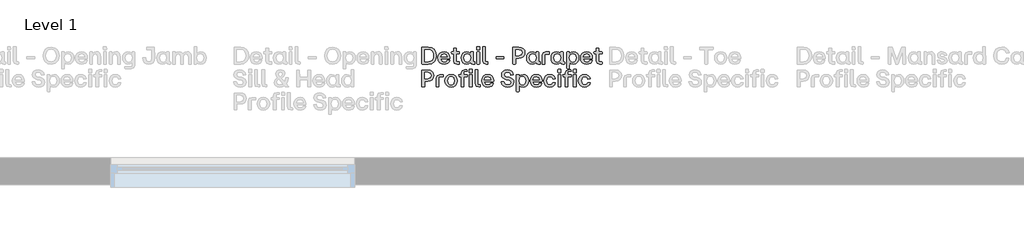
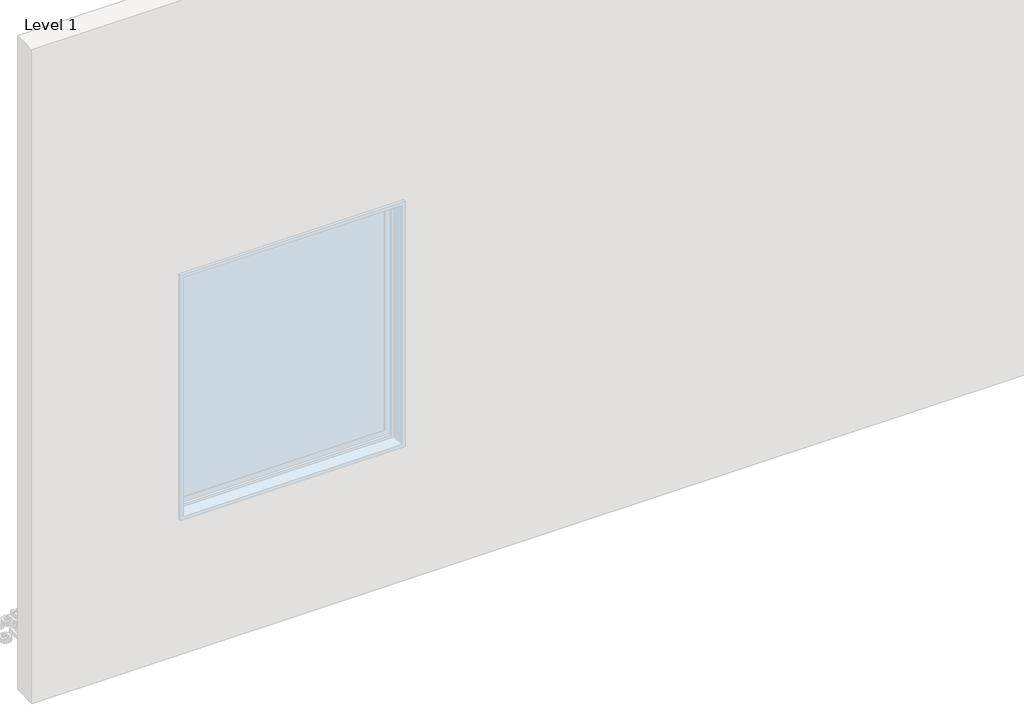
# One storey, part 62 of 64: 1 proxy.
"""IFC4 building model written with IfcOpenShell, lengths in millimetres."""

from ifc_helpers import new_model, si_unit, origin, origin_with_axes, place, context, project, spatial, polyline, outline, extrude, element, save

model = new_model("IFC4")

# Units and contexts
model_context = context("Model", 3, world=origin())
ifc_project = project(units=[si_unit("LENGTHUNIT", "METRE", prefix="MILLI")], contexts=[model_context])

# Site, building, storey
site = spatial("IfcSite", under=ifc_project)
building = spatial("IfcBuilding", under=site)
storey = spatial("IfcBuildingStorey", under=building, Name="Level 1", Elevation=0.0)

# Proxy
placement = place(None, origin())
element("IfcBuildingElementProxy", 1, Name="90mm", ObjectType="90mm", at=placement, inside=storey, context=model_context, shape_type="SweptSolid", body=[
    extrude(outline(polyline([(16110.2926176, 6000.0), (16108.9872124, 6001.2551973), (16108.9872124, 6088.6922388), (16142.5511873, 6089.997644), (16160.5475781, 6086.9945845), (16174.1193986, 6077.9854062), (16182.63905, 6063.6416394), (16185.4789338, 6044.6348148), (16182.648464, 6025.7974418), (16174.1570545, 6011.7109905), (16160.594648, 6002.9277476), (16142.5511873, 6000.0), (16110.2926176, 6000.0)]), holes=[polyline([(16123.7985402, 6012.6272845), (16141.6725492, 6012.6272845), (16153.8950326, 6014.688946), (16162.9481429, 6020.8739305), (16168.5494607, 6030.9374746), (16170.4165666, 6044.6348148), (16168.5431847, 6058.4890546), (16162.923039, 6068.8224661), (16153.8636527, 6075.2522141), (16141.6725492, 6077.3954634), (16123.7985402, 6077.3954634), (16123.7985402, 6012.6272845)])]), origin_with_axes(), (0.0, 0.0, 1.0), 20.0),
    extrude(outline(polyline([(16227.628458, 5999.2468816), (16214.0409476, 6001.5156507), (16203.5035666, 6008.3219579), (16196.7443293, 6018.9377888), (16194.4912502, 6032.6351289), (16196.7349153, 6046.4987827), (16203.4659107, 6057.2118914), (16213.9938777, 6064.0652685), (16227.628458, 6066.3497275), (16240.1584647, 6064.0966484), (16249.7324819, 6057.3374111), (16255.8044987, 6046.6870623), (16257.8285043, 6032.7606486), (16257.8285043, 6029.3214081), (16256.573307, 6027.990899), (16209.1268503, 6027.990899), (16214.6497183, 6015.3134066), (16227.628458, 6010.7946965), (16238.0465953, 6013.0917075), (16243.4439436, 6019.5308695), (16244.8246606, 6020.5852352), (16256.1967478, 6020.5852352), (16254.1633282, 6011.2685335), (16247.8120301, 6004.8074055), (16238.8248176, 6000.6370126), (16227.628458, 5999.2468816)]), holes=[polyline([(16209.2523701, 6038.4090363), (16243.8205028, 6038.4090363), (16239.0633051, 6050.3710663), (16227.628458, 6054.7266008), (16214.8631018, 6050.5844498), (16209.2523701, 6038.4090363)])]), origin_with_axes(), (0.0, 0.0, 1.0), 20.0),
    extrude(outline(polyline([(16296.6140998, 6000.0), (16282.731618, 6004.7697496), (16277.9618684, 6018.6522314), (16277.9618684, 6054.2245219), (16266.7906127, 6054.2245219), (16265.4852076, 6064.2661), (16266.7906127, 6065.5212973), (16277.9618684, 6065.5212973), (16277.9618684, 6083.54593), (16279.2170657, 6084.8513352), (16290.9657121, 6084.8513352), (16292.2209094, 6083.54593), (16292.2209094, 6065.5212973), (16308.0363949, 6065.5212973), (16309.3418001, 6064.2661), (16309.3418001, 6055.555031), (16292.2209094, 6054.2245219), (16292.2209094, 6011.2967754), (16308.0363949, 6011.2967754), (16309.3418001, 6010.0415781), (16309.3418001, 6001.2551973), (16308.0363949, 6000.0), (16296.6140998, 6000.0)])), origin_with_axes(), (0.0, 0.0, 1.0), 20.0),
    extrude(outline(polyline([(16347.2738615, 5999.2468816), (16335.3243835, 6001.5156507), (16326.0861316, 6008.3219579), (16320.1741525, 6018.9377888), (16318.2034928, 6032.6351289), (16320.1741525, 6046.4674028), (16326.0861316, 6057.1867875), (16335.3243835, 6064.0589925), (16347.2738615, 6066.3497275), (16359.1856835, 6063.4627738), (16368.160344, 6055.555031), (16368.7377347, 6064.2661), (16369.992932, 6065.5212973), (16381.6662665, 6065.5212973), (16382.9716717, 6064.2661), (16382.9716717, 6011.2967754), (16390.0760882, 6011.2967754), (16391.3312855, 6010.0415781), (16391.3312855, 6001.2551973), (16390.0760882, 6000.0), (16380.536589, 6000.0), (16372.1581473, 6002.3534949), (16369.3653333, 6009.4139795), (16359.7254183, 6002.1338354), (16347.2738615, 5999.2468816)]), holes=[polyline([(16332.7135732, 6032.6351289), (16337.6716024, 6016.6313638), (16343.5365116, 6012.2538633), (16351.2151809, 6010.7946965), (16358.7714684, 6012.2475873), (16364.470064, 6016.6062598), (16369.2398136, 6032.6351289), (16364.4324081, 6048.8271737), (16358.7243985, 6053.251744), (16351.2151809, 6054.7266008), (16343.5365116, 6053.251744), (16337.6716024, 6048.8271737), (16332.7135732, 6032.6351289)])]), origin_with_axes(), (0.0, 0.0, 1.0), 20.0),
    extrude(outline(polyline([(16403.6824266, 6000.0), (16402.3770214, 6001.2551973), (16402.3770214, 6064.2661), (16403.6824266, 6065.5212973), (16415.3557612, 6065.5212973), (16416.6109584, 6064.2661), (16416.6109584, 6001.2551973), (16415.3557612, 6000.0), (16403.6824266, 6000.0)])), origin_with_axes(), (0.0, 0.0, 1.0), 20.0),
    extrude(outline(polyline([(16401.3728636, 6078.1485818), (16401.3728636, 6092.0059596), (16402.6280609, 6093.3364687), (16416.4854387, 6093.3364687), (16417.8159478, 6078.1485818), (16416.4854387, 6076.8933845), (16402.6280609, 6076.8933845), (16401.3728636, 6078.1485818)])), origin_with_axes(), (0.0, 0.0, 1.0), 20.0),
    extrude(outline(polyline([(16451.5305464, 6000.0), (16437.6731686, 6004.7697496), (16432.903419, 6018.6522314), (16432.903419, 6091.2528413), (16445.8821587, 6092.5833504), (16447.137356, 6091.2528413), (16447.137356, 6011.2967754), (16459.1370418, 6011.2967754), (16460.3922391, 6010.0415781), (16460.3922391, 6001.2551973), (16459.1370418, 6000.0), (16451.5305464, 6000.0)])), origin_with_axes(), (0.0, 0.0, 1.0), 20.0),
    extrude(outline(polyline([(16505.1776775, 6027.112261), (16503.9224803, 6028.4427701), (16503.9224803, 6038.4090363), (16505.1776775, 6039.7395454), (16543.7875455, 6039.7395454), (16545.0427427, 6038.4090363), (16545.0427427, 6028.4427701), (16543.7875455, 6027.112261), (16505.1776775, 6027.112261)])), origin_with_axes(), (0.0, 0.0, 1.0), 20.0),
    extrude(outline(polyline([(16595.5016728, 6000.0), (16594.1962677, 6001.2551973), (16594.1962677, 6088.6922388), (16625.3251599, 6089.997644), (16639.2264696, 6088.0991581), (16649.5504671, 6082.4037005), (16655.9519732, 6073.2093806), (16658.0858085, 6060.8143076), (16655.9519732, 6048.4192345), (16649.5504671, 6039.2249146), (16639.2264696, 6033.529457), (16625.3251599, 6031.6309711), (16609.0075954, 6031.6309711), (16609.0075954, 6001.2551973), (16607.6770863, 6000.0), (16595.5016728, 6000.0)]), holes=[polyline([(16609.0075954, 6044.2582556), (16625.3251599, 6044.2582556), (16638.8059785, 6048.3376467), (16643.1991689, 6060.8268595), (16638.8059785, 6073.3160723), (16625.3251599, 6077.3954634), (16609.0075954, 6077.3954634), (16609.0075954, 6044.2582556)])]), origin_with_axes(), (0.0, 0.0, 1.0), 20.0),
    extrude(outline(polyline([(16695.9174541, 5999.2468816), (16683.9679762, 6001.5156507), (16674.7297243, 6008.3219579), (16668.8177452, 6018.9377888), (16666.8470854, 6032.6351289), (16668.8177452, 6046.4674028), (16674.7297243, 6057.1867875), (16683.9679762, 6064.0589925), (16695.9174541, 6066.3497275), (16707.8292762, 6063.4627738), (16716.8039366, 6055.555031), (16717.3813274, 6064.2661), (16718.6365247, 6065.5212973), (16730.3098592, 6065.5212973), (16731.6152644, 6064.2661), (16731.6152644, 6011.2967754), (16738.7196809, 6011.2967754), (16739.9748782, 6010.0415781), (16739.9748782, 6001.2551973), (16738.7196809, 6000.0), (16729.1801817, 6000.0), (16720.8017399, 6002.3534949), (16718.008926, 6009.4139795), (16708.369011, 6002.1338354), (16695.9174541, 5999.2468816)]), holes=[polyline([(16681.3571658, 6032.6351289), (16686.315195, 6016.6313638), (16692.1801043, 6012.2538633), (16699.8587735, 6010.7946965), (16707.4150611, 6012.2475873), (16713.1136567, 6016.6062598), (16717.8834063, 6032.6351289), (16713.0760008, 6048.8271737), (16707.3679912, 6053.251744), (16699.8587735, 6054.7266008), (16692.1801043, 6053.251744), (16686.315195, 6048.8271737), (16681.3571658, 6032.6351289)])]), origin_with_axes(), (0.0, 0.0, 1.0), 20.0),
    extrude(outline(polyline([(16751.6482128, 6000.0), (16750.3930155, 6001.2551973), (16750.3930155, 6046.9443778), (16755.1627651, 6060.7892036), (16769.0201429, 6065.5212973), (16787.2958151, 6065.5212973), (16788.5510124, 6064.2661), (16788.5510124, 6054.7266008), (16787.2958151, 6053.4714035), (16764.6269525, 6053.4714035), (16764.6269525, 6001.2551973), (16763.3717552, 6000.0), (16751.6482128, 6000.0)])), origin_with_axes(), (0.0, 0.0, 1.0), 20.0),
    extrude(outline(polyline([(16826.0563067, 5999.2468816), (16814.1068287, 6001.5156507), (16804.8685768, 6008.3219579), (16798.9565977, 6018.9377888), (16796.985938, 6032.6351289), (16798.9565977, 6046.4674028), (16804.8685768, 6057.1867875), (16814.1068287, 6064.0589925), (16826.0563067, 6066.3497275), (16837.9681288, 6063.4627738), (16846.9427892, 6055.555031), (16847.52018, 6064.2661), (16848.7753772, 6065.5212973), (16860.4487118, 6065.5212973), (16861.754117, 6064.2661), (16861.754117, 6011.2967754), (16868.8585335, 6011.2967754), (16870.1137307, 6010.0415781), (16870.1137307, 6001.2551973), (16868.8585335, 6000.0), (16859.3190343, 6000.0), (16850.9405925, 6002.3534949), (16848.1477786, 6009.4139795), (16838.5078636, 6002.1338354), (16826.0563067, 5999.2468816)]), holes=[polyline([(16811.4960184, 6032.6351289), (16816.4540476, 6016.6313638), (16822.3189568, 6012.2538633), (16829.9976261, 6010.7946965), (16837.5539137, 6012.2475873), (16843.2525092, 6016.6062598), (16848.0222589, 6032.6351289), (16843.2148533, 6048.8271737), (16837.5068438, 6053.251744), (16829.9976261, 6054.7266008), (16822.3189568, 6053.251744), (16816.4540476, 6048.8271737), (16811.4960184, 6032.6351289)])]), origin_with_axes(), (0.0, 0.0, 1.0), 20.0),
    extrude(outline(polyline([(16882.4648718, 5975.5989651), (16881.1594667, 5976.8541624), (16881.1594667, 6064.2661), (16882.4648718, 6065.5212973), (16893.5106078, 6065.5212973), (16894.7658051, 6064.2661), (16894.7658051, 6055.6805507), (16904.4057201, 6063.4627738), (16916.8572769, 6066.3497275), (16928.8067549, 6064.0746824), (16938.0450068, 6057.2495473), (16943.9569859, 6046.6086125), (16945.9276456, 6032.8861684), (16943.9569859, 6019.0789984), (16938.0450068, 6008.3847177), (16928.8067549, 6001.5313407), (16916.8572769, 5999.2468816), (16904.9454549, 6002.1338354), (16895.9707944, 6010.0415781), (16895.3934037, 5976.8541624), (16894.1382064, 5975.5989651), (16882.4648718, 5975.5989651)]), holes=[polyline([(16894.8913248, 6032.8861684), (16899.6987303, 6016.6941236), (16905.4067399, 6012.2695533), (16912.9159575, 6010.7946965), (16920.5946268, 6012.2695533), (16926.459536, 6016.6941236), (16931.4175652, 6032.8861684), (16926.459536, 6048.8899335), (16920.5946268, 6053.267434), (16912.9159575, 6054.7266008), (16905.35967, 6053.276848), (16899.6610744, 6048.9275894), (16894.8913248, 6032.8861684)])]), origin_with_axes(), (0.0, 0.0, 1.0), 20.0),
    extrude(outline(polyline([(16987.5750909, 5999.2468816), (16973.9875805, 6001.5156507), (16963.4501995, 6008.3219579), (16956.6909622, 6018.9377888), (16954.4378831, 6032.6351289), (16956.6815482, 6046.4987827), (16963.4125435, 6057.2118914), (16973.9405106, 6064.0652685), (16987.5750909, 6066.3497275), (17000.1050976, 6064.0966484), (17009.6791148, 6057.3374111), (17015.7511316, 6046.6870623), (17017.7751371, 6032.7606486), (17017.7751371, 6029.3214081), (17016.5199399, 6027.990899), (16969.0734832, 6027.990899), (16974.5963512, 6015.3134066), (16987.5750909, 6010.7946965), (16997.9932282, 6013.0917075), (17003.3905765, 6019.5308695), (17004.7712935, 6020.5852352), (17016.1433807, 6020.5852352), (17014.1099611, 6011.2685335), (17007.758663, 6004.8074055), (16998.7714505, 6000.6370126), (16987.5750909, 5999.2468816)]), holes=[polyline([(16969.1990029, 6038.4090363), (17003.7671357, 6038.4090363), (16999.009938, 6050.3710663), (16987.5750909, 6054.7266008), (16974.8097347, 6050.5844498), (16969.1990029, 6038.4090363)])]), origin_with_axes(), (0.0, 0.0, 1.0), 20.0),
    extrude(outline(polyline([(17056.5607327, 6000.0), (17042.6782509, 6004.7697496), (17037.9085013, 6018.6522314), (17037.9085013, 6054.2245219), (17026.7372456, 6054.2245219), (17025.4318405, 6064.2661), (17026.7372456, 6065.5212973), (17037.9085013, 6065.5212973), (17037.9085013, 6083.54593), (17039.1636986, 6084.8513352), (17050.912345, 6084.8513352), (17052.1675422, 6083.54593), (17052.1675422, 6065.5212973), (17067.9830278, 6065.5212973), (17069.288433, 6064.2661), (17069.288433, 6055.555031), (17052.1675422, 6054.2245219), (17052.1675422, 6011.2967754), (17067.9830278, 6011.2967754), (17069.288433, 6010.0415781), (17069.288433, 6001.2551973), (17067.9830278, 6000.0), (17056.5607327, 6000.0)])), origin_with_axes(), (0.0, 0.0, 1.0), 20.0),
    extrude(outline(polyline([(16110.2926176, 5877.86695), (16108.9872124, 5879.1221472), (16108.9872124, 5966.5591888), (16140.1161046, 5967.864594), (16154.0174144, 5965.9661081), (16164.3414119, 5960.2706505), (16170.7429179, 5951.0763305), (16172.8767533, 5938.6812575), (16170.7429179, 5926.2861845), (16164.3414119, 5917.0918646), (16154.0174144, 5911.396407), (16140.1161046, 5909.4979211), (16123.7985402, 5909.4979211), (16123.7985402, 5879.1221472), (16122.4680311, 5877.86695), (16110.2926176, 5877.86695)]), holes=[polyline([(16123.7985402, 5922.1252056), (16140.1161046, 5922.1252056), (16153.5969233, 5926.2045967), (16157.9901137, 5938.6938095), (16153.5969233, 5951.1830223), (16140.1161046, 5955.2624134), (16123.7985402, 5955.2624134), (16123.7985402, 5922.1252056)])]), origin_with_axes(), (0.0, 0.0, 1.0), 20.0),
    extrude(outline(polyline([(16186.1065325, 5877.86695), (16184.8513352, 5879.1221472), (16184.8513352, 5924.8113277), (16189.6210848, 5938.6561536), (16203.4784626, 5943.3882473), (16221.7541348, 5943.3882473), (16223.0093321, 5942.13305), (16223.0093321, 5932.5935508), (16221.7541348, 5931.3383535), (16199.0852722, 5931.3383535), (16199.0852722, 5879.1221472), (16197.8300749, 5877.86695), (16186.1065325, 5877.86695)])), origin_with_axes(), (0.0, 0.0, 1.0), 20.0),
    extrude(outline(polyline([(16264.2049064, 5877.1138316), (16250.9782652, 5879.4202566), (16240.519334, 5886.3395315), (16233.7130268, 5896.9930183), (16231.4442577, 5910.5020789), (16233.7193028, 5924.0990033), (16240.5444379, 5934.8654578), (16251.0096451, 5941.8788726), (16264.2049064, 5944.2166775), (16277.5570673, 5941.8788726), (16288.0913103, 5934.8654578), (16294.9352734, 5924.0990033), (16297.2165945, 5910.5020789), (16294.9352734, 5896.9930183), (16288.0913103, 5886.3395315), (16277.5570673, 5879.4202566), (16264.2049064, 5877.1138316)]), holes=[polyline([(16245.9543381, 5910.5020789), (16250.8119515, 5894.4732098), (16256.588997, 5890.1145373), (16264.2049064, 5888.6616465), (16271.9024036, 5890.1208133), (16277.7735888, 5894.4983138), (16282.731618, 5910.5020789), (16277.7986928, 5926.6941236), (16271.9337835, 5931.118694), (16264.2049064, 5932.5935508), (16256.588997, 5931.118694), (16250.8119515, 5926.6941236), (16245.9543381, 5910.5020789)])]), origin_with_axes(), (0.0, 0.0, 1.0), 20.0),
    extrude(outline(polyline([(16319.3833782, 5877.86695), (16318.1281809, 5879.1221472), (16318.1281809, 5932.0914719), (16306.9569253, 5932.0914719), (16305.6515201, 5942.13305), (16306.9569253, 5943.3882473), (16318.1281809, 5943.3882473), (16318.1281809, 5951.798069), (16322.8979305, 5965.6805507), (16336.7804123, 5970.4503003), (16348.2027074, 5970.4503003), (16349.5081126, 5960.4087222), (16332.3872219, 5959.0782131), (16332.3872219, 5943.3882473), (16348.2027074, 5943.3882473), (16349.5081126, 5942.13305), (16349.5081126, 5933.421981), (16332.3872219, 5932.0914719), (16332.3872219, 5879.1221472), (16331.1320246, 5877.86695), (16319.3833782, 5877.86695)])), origin_with_axes(), (0.0, 0.0, 1.0), 20.0),
    extrude(outline(polyline([(16361.3069669, 5956.0155318), (16361.3069669, 5969.8729096), (16362.5621642, 5971.2034187), (16376.4948538, 5971.2034187), (16377.7500511, 5969.8729096), (16377.7500511, 5956.0155318), (16376.4948538, 5954.7603345), (16362.5621642, 5954.7603345), (16361.3069669, 5956.0155318)])), origin_with_axes(), (0.0, 0.0, 1.0), 20.0),
    extrude(outline(polyline([(16362.3111247, 5879.1221472), (16362.3111247, 5942.13305), (16363.6416338, 5943.3882473), (16375.3149684, 5943.3882473), (16376.6203735, 5942.13305), (16376.6203735, 5879.1221472), (16375.3149684, 5877.86695), (16363.6416338, 5877.86695), (16362.3111247, 5879.1221472)])), origin_with_axes(), (0.0, 0.0, 1.0), 20.0),
    extrude(outline(polyline([(16411.3642339, 5877.86695), (16397.506856, 5882.6366996), (16392.7371064, 5896.5191814), (16392.7371064, 5969.1197912), (16405.7158462, 5970.4503003), (16406.9710434, 5969.1197912), (16406.9710434, 5889.1637254), (16418.9707293, 5889.1637254), (16420.2259266, 5887.9085281), (16420.2259266, 5879.1221472), (16418.9707293, 5877.86695), (16411.3642339, 5877.86695)])), origin_with_axes(), (0.0, 0.0, 1.0), 20.0),
    extrude(outline(polyline([(16460.5930707, 5877.1138316), (16447.0055602, 5879.3826007), (16436.4681792, 5886.1889079), (16429.7089419, 5896.8047387), (16427.4558628, 5910.5020789), (16429.6995279, 5924.3657327), (16436.4305233, 5935.0788414), (16446.9584903, 5941.9322185), (16460.5930707, 5944.2166775), (16473.1230774, 5941.9635984), (16482.6970945, 5935.2043611), (16488.7691113, 5924.5540123), (16490.7931169, 5910.6275986), (16490.7931169, 5907.1883581), (16489.5379196, 5905.857849), (16442.0914629, 5905.857849), (16447.6143309, 5893.1803566), (16460.5930707, 5888.6616465), (16471.011208, 5890.9586575), (16476.4085562, 5897.3978194), (16477.7892732, 5898.4521852), (16489.1613604, 5898.4521852), (16487.1279409, 5889.1354834), (16480.7766427, 5882.6743555), (16471.7894303, 5878.5039626), (16460.5930707, 5877.1138316)]), holes=[polyline([(16442.2169827, 5916.2759863), (16476.7851154, 5916.2759863), (16472.0279177, 5928.2380163), (16460.5930707, 5932.5935508), (16447.8277145, 5928.4513998), (16442.2169827, 5916.2759863)])]), origin_with_axes(), (0.0, 0.0, 1.0), 20.0),
    extrude(outline(polyline([(16566.8831752, 5877.1138316), (16553.1136611, 5878.9652476), (16542.4319324, 5884.5194955), (16535.1706162, 5893.4941559), (16531.6623399, 5905.6068096), (16544.917223, 5907.0628384), (16546.2226282, 5905.857849), (16552.4107507, 5893.3058764), (16566.8831752, 5889.4147648), (16579.3974919, 5892.992077), (16583.8785461, 5902.9206874), (16580.7782089, 5911.1673335), (16570.3977275, 5915.2718285), (16558.5235614, 5917.355456), (16547.5186193, 5920.6095549), (16539.6579465, 5925.9284533), (16534.9415427, 5933.3121512), (16533.3694082, 5942.7606486), (16535.3839998, 5953.602415), (16541.4277746, 5961.7768872), (16551.0802416, 5966.9075061), (16563.9209096, 5968.6177123), (16576.6548859, 5966.8855401), (16586.5897722, 5961.6890234), (16593.3803895, 5953.3356856), (16596.6815583, 5942.13305), (16583.501987, 5940.7021251), (16582.0710621, 5942.13305), (16576.2594987, 5952.8398827), (16563.9209096, 5956.2665712), (16552.1597112, 5953.1285781), (16548.1054241, 5943.965638), (16551.7203922, 5935.267121), (16563.0422715, 5930.7107549), (16574.8411258, 5928.6522314), (16585.6609263, 5925.4828583), (16593.0163822, 5920.3930334), (16597.2338451, 5913.0626813), (16598.639666, 5903.1717269), (16596.5277966, 5892.2577866), (16590.1921884, 5884.0174166), (16580.1411963, 5878.8397279), (16566.8831752, 5877.1138316)])), origin_with_axes(), (0.0, 0.0, 1.0), 20.0),
    extrude(outline(polyline([(16614.1539042, 5853.4659151), (16612.848499, 5854.7211124), (16612.848499, 5942.13305), (16614.1539042, 5943.3882473), (16625.1996401, 5943.3882473), (16626.4548374, 5942.13305), (16626.4548374, 5933.5475007), (16636.0947524, 5941.3297238), (16648.5463093, 5944.2166775), (16660.4957873, 5941.9416324), (16669.7340392, 5935.1164973), (16675.6460183, 5924.4755625), (16677.616678, 5910.7531184), (16675.6460183, 5896.9459484), (16669.7340392, 5886.2516677), (16660.4957873, 5879.3982906), (16648.5463093, 5877.1138316), (16636.6344872, 5880.0007853), (16627.6598268, 5887.9085281), (16627.082436, 5854.7211124), (16625.8272388, 5853.4659151), (16614.1539042, 5853.4659151)]), holes=[polyline([(16626.5803571, 5910.7531184), (16631.3877627, 5894.5610736), (16637.0957722, 5890.1365033), (16644.6049899, 5888.6616465), (16652.2836592, 5890.1365033), (16658.1485684, 5894.5610736), (16663.1065976, 5910.7531184), (16658.1485684, 5926.7568835), (16652.2836592, 5931.134384), (16644.6049899, 5932.5935508), (16637.0487023, 5931.143798), (16631.3501068, 5926.7945394), (16626.5803571, 5910.7531184)])]), origin_with_axes(), (0.0, 0.0, 1.0), 20.0),
    extrude(outline(polyline([(16719.2641233, 5877.1138316), (16705.6766129, 5879.3826007), (16695.1392318, 5886.1889079), (16688.3799945, 5896.8047387), (16686.1269155, 5910.5020789), (16688.3705806, 5924.3657327), (16695.1015759, 5935.0788414), (16705.629543, 5941.9322185), (16719.2641233, 5944.2166775), (16731.79413, 5941.9635984), (16741.3681471, 5935.2043611), (16747.4401639, 5924.5540123), (16749.4641695, 5910.6275986), (16749.4641695, 5907.1883581), (16748.2089722, 5905.857849), (16700.7625156, 5905.857849), (16706.2853836, 5893.1803566), (16719.2641233, 5888.6616465), (16729.6822606, 5890.9586575), (16735.0796088, 5897.3978194), (16736.4603258, 5898.4521852), (16747.8324131, 5898.4521852), (16745.7989935, 5889.1354834), (16739.4476953, 5882.6743555), (16730.4604829, 5878.5039626), (16719.2641233, 5877.1138316)]), holes=[polyline([(16700.8880353, 5916.2759863), (16735.456168, 5916.2759863), (16730.6989704, 5928.2380163), (16719.2641233, 5932.5935508), (16706.4987671, 5928.4513998), (16700.8880353, 5916.2759863)])]), origin_with_axes(), (0.0, 0.0, 1.0), 20.0),
    extrude(outline(polyline([(16791.4379661, 5877.1138316), (16777.9445955, 5879.3826007), (16767.4385944, 5886.1889079), (16760.6793571, 5896.8047387), (16758.426278, 5910.5020789), (16760.710737, 5924.0990033), (16767.5641141, 5934.8654578), (16778.1014951, 5941.8788726), (16791.4379661, 5944.2166775), (16802.4209422, 5942.6696468), (16811.3704987, 5938.028555), (16817.6841409, 5930.8456886), (16820.7593742, 5921.6733346), (16808.1320897, 5920.2926176), (16801.7054797, 5929.8321168), (16791.4379661, 5932.5935508), (16783.680847, 5931.118694), (16777.8316277, 5926.6941236), (16772.9363584, 5910.5020789), (16777.8567317, 5894.4355539), (16783.7122269, 5890.1051233), (16791.4379661, 5888.6616465), (16802.019279, 5891.2975607), (16807.3789714, 5899.8329021), (16808.7596884, 5901.0378915), (16820.1317756, 5901.0378915), (16818.12346, 5890.5287524), (16811.7470579, 5883.3019541), (16802.7033616, 5878.6608623), (16791.4379661, 5877.1138316)])), origin_with_axes(), (0.0, 0.0, 1.0), 20.0),
    extrude(outline(polyline([(16835.8719493, 5877.86695), (16834.5665442, 5879.1221472), (16834.5665442, 5942.13305), (16835.8719493, 5943.3882473), (16847.5452839, 5943.3882473), (16848.8004812, 5942.13305), (16848.8004812, 5879.1221472), (16847.5452839, 5877.86695), (16835.8719493, 5877.86695)])), origin_with_axes(), (0.0, 0.0, 1.0), 20.0),
    extrude(outline(polyline([(16833.5623863, 5956.0155318), (16833.5623863, 5969.8729096), (16834.8175836, 5971.2034187), (16848.6749614, 5971.2034187), (16850.0054705, 5956.0155318), (16848.6749614, 5954.7603345), (16834.8175836, 5954.7603345), (16833.5623863, 5956.0155318)])), origin_with_axes(), (0.0, 0.0, 1.0), 20.0),
    extrude(outline(polyline([(16873.678491, 5877.86695), (16872.4232937, 5879.1221472), (16872.4232937, 5932.0914719), (16861.252038, 5932.0914719), (16859.9466329, 5942.13305), (16861.252038, 5943.3882473), (16872.4232937, 5943.3882473), (16872.4232937, 5951.798069), (16877.1930433, 5965.6805507), (16891.0755251, 5970.4503003), (16902.4978202, 5970.4503003), (16903.8032254, 5960.4087222), (16886.6823347, 5959.0782131), (16886.6823347, 5943.3882473), (16902.4978202, 5943.3882473), (16903.8032254, 5942.13305), (16903.8032254, 5933.421981), (16886.6823347, 5932.0914719), (16886.6823347, 5879.1221472), (16885.4271374, 5877.86695), (16873.678491, 5877.86695)])), origin_with_axes(), (0.0, 0.0, 1.0), 20.0),
    extrude(outline(polyline([(16915.6020797, 5956.0155318), (16915.6020797, 5969.8729096), (16916.8572769, 5971.2034187), (16930.7899666, 5971.2034187), (16932.0451639, 5969.8729096), (16932.0451639, 5956.0155318), (16930.7899666, 5954.7603345), (16916.8572769, 5954.7603345), (16915.6020797, 5956.0155318)])), origin_with_axes(), (0.0, 0.0, 1.0), 20.0),
    extrude(outline(polyline([(16916.6062375, 5879.1221472), (16916.6062375, 5942.13305), (16917.9367466, 5943.3882473), (16929.6100812, 5943.3882473), (16930.9154863, 5942.13305), (16930.9154863, 5879.1221472), (16929.6100812, 5877.86695), (16917.9367466, 5877.86695), (16916.6062375, 5879.1221472)])), origin_with_axes(), (0.0, 0.0, 1.0), 20.0),
    extrude(outline(polyline([(16976.2030037, 5877.1138316), (16962.7096331, 5879.3826007), (16952.203632, 5886.1889079), (16945.4443947, 5896.8047387), (16943.1913156, 5910.5020789), (16945.4757746, 5924.0990033), (16952.3291517, 5934.8654578), (16962.8665327, 5941.8788726), (16976.2030037, 5944.2166775), (16987.1859798, 5942.6696468), (16996.1355363, 5938.028555), (17002.4491785, 5930.8456886), (17005.5244118, 5921.6733346), (16992.8971273, 5920.2926176), (16986.4705173, 5929.8321168), (16976.2030037, 5932.5935508), (16968.4458846, 5931.118694), (16962.5966653, 5926.6941236), (16957.701396, 5910.5020789), (16962.6217693, 5894.4355539), (16968.4772645, 5890.1051233), (16976.2030037, 5888.6616465), (16986.7843166, 5891.2975607), (16992.144009, 5899.8329021), (16993.524726, 5901.0378915), (17004.8968132, 5901.0378915), (17002.8884976, 5890.5287524), (16996.5120955, 5883.3019541), (16987.4683992, 5878.6608623), (16976.2030037, 5877.1138316)])), origin_with_axes(), (0.0, 0.0, 1.0), 20.0),
])

save(model, "model.ifc")
